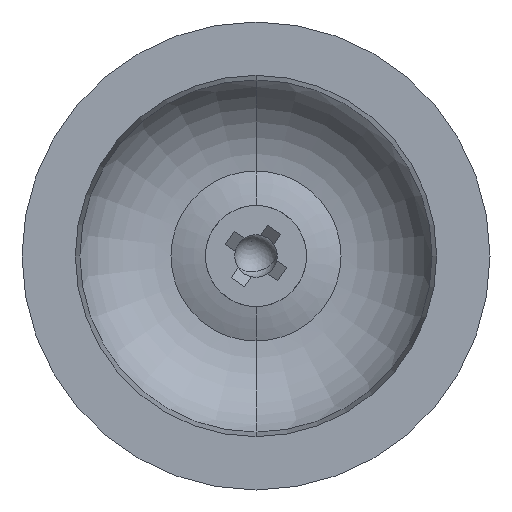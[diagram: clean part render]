
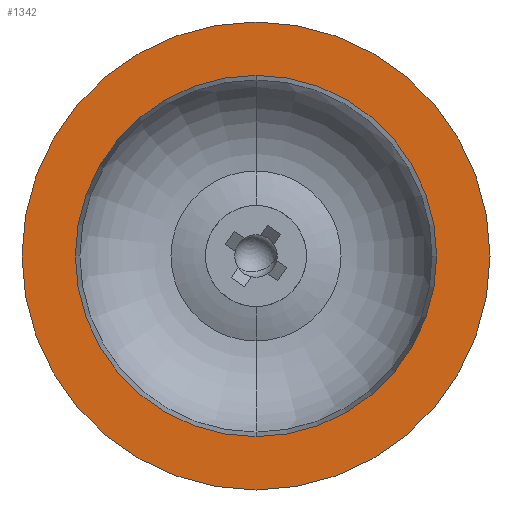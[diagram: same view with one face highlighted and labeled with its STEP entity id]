
A CAD part, front view. The second image highlights one B-rep face of the part: STEP entity #1342.
In plain terms, the highlighted planar face has unit normal (0, -1, 0).
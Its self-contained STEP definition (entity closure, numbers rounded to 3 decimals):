
#31 = CARTESIAN_POINT ( 'NONE',  ( 0., 0., -22. ) ) ;
#34 = CIRCLE ( 'NONE', #798, 22. ) ;
#173 = CIRCLE ( 'NONE', #2938, 22. ) ;
#654 = CARTESIAN_POINT ( 'NONE',  ( 0., 0., 0. ) ) ;
#659 = DIRECTION ( 'NONE',  ( 0., -1., 0. ) ) ;
#761 = DIRECTION ( 'NONE',  ( 0., 0., -1. ) ) ;
#798 = AXIS2_PLACEMENT_3D ( 'NONE', #1132, #1401, #3254 ) ;
#860 = EDGE_LOOP ( 'NONE', ( #2954, #2736 ) ) ;
#887 = VERTEX_POINT ( 'NONE', #31 ) ;
#899 = EDGE_LOOP ( 'NONE', ( #3092, #2408 ) ) ;
#916 = DIRECTION ( 'NONE',  ( 0., 0., -1. ) ) ;
#958 = CARTESIAN_POINT ( 'NONE',  ( 0., 0., -16.985 ) ) ;
#1057 = CARTESIAN_POINT ( 'NONE',  ( 0., 0., 0. ) ) ;
#1062 = CIRCLE ( 'NONE', #1741, 16.985 ) ;
#1132 = CARTESIAN_POINT ( 'NONE',  ( 0., 0., 0. ) ) ;
#1238 = VERTEX_POINT ( 'NONE', #2555 ) ;
#1241 = CARTESIAN_POINT ( 'NONE',  ( 0., 0., 16.985 ) ) ;
#1323 = EDGE_CURVE ( 'NONE', #887, #1238, #173, .T. ) ;
#1342 = ADVANCED_FACE ( 'NONE', ( #2979, #1676 ), #3216, .F. ) ;
#1400 = EDGE_CURVE ( 'NONE', #1238, #887, #34, .T. ) ;
#1401 = DIRECTION ( 'NONE',  ( 0., -1., 0. ) ) ;
#1676 = FACE_OUTER_BOUND ( 'NONE', #860, .T. ) ;
#1677 = VERTEX_POINT ( 'NONE', #1241 ) ;
#1683 = VERTEX_POINT ( 'NONE', #958 ) ;
#1741 = AXIS2_PLACEMENT_3D ( 'NONE', #2795, #659, #2539 ) ;
#1764 = EDGE_CURVE ( 'NONE', #1683, #1677, #1062, .T. ) ;
#2022 = CIRCLE ( 'NONE', #2174, 16.985 ) ;
#2112 = DIRECTION ( 'NONE',  ( 0., 0., 1. ) ) ;
#2147 = DIRECTION ( 'NONE',  ( 0., 1., 0. ) ) ;
#2174 = AXIS2_PLACEMENT_3D ( 'NONE', #654, #2531, #916 ) ;
#2408 = ORIENTED_EDGE ( 'NONE', *, *, #2623, .F. ) ;
#2531 = DIRECTION ( 'NONE',  ( 0., -1., 0. ) ) ;
#2539 = DIRECTION ( 'NONE',  ( 0., 0., -1. ) ) ;
#2555 = CARTESIAN_POINT ( 'NONE',  ( 0., 0., 22. ) ) ;
#2623 = EDGE_CURVE ( 'NONE', #1677, #1683, #2022, .T. ) ;
#2736 = ORIENTED_EDGE ( 'NONE', *, *, #1400, .T. ) ;
#2795 = CARTESIAN_POINT ( 'NONE',  ( 0., 0., 0. ) ) ;
#2938 = AXIS2_PLACEMENT_3D ( 'NONE', #1057, #3449, #761 ) ;
#2954 = ORIENTED_EDGE ( 'NONE', *, *, #1323, .T. ) ;
#2979 = FACE_BOUND ( 'NONE', #899, .T. ) ;
#3092 = ORIENTED_EDGE ( 'NONE', *, *, #1764, .F. ) ;
#3113 = AXIS2_PLACEMENT_3D ( 'NONE', #3187, #2147, #2112 ) ;
#3187 = CARTESIAN_POINT ( 'NONE',  ( -22., 0., 0. ) ) ;
#3216 = PLANE ( 'NONE',  #3113 ) ;
#3254 = DIRECTION ( 'NONE',  ( 0., 0., -1. ) ) ;
#3449 = DIRECTION ( 'NONE',  ( 0., -1., 0. ) ) ;
